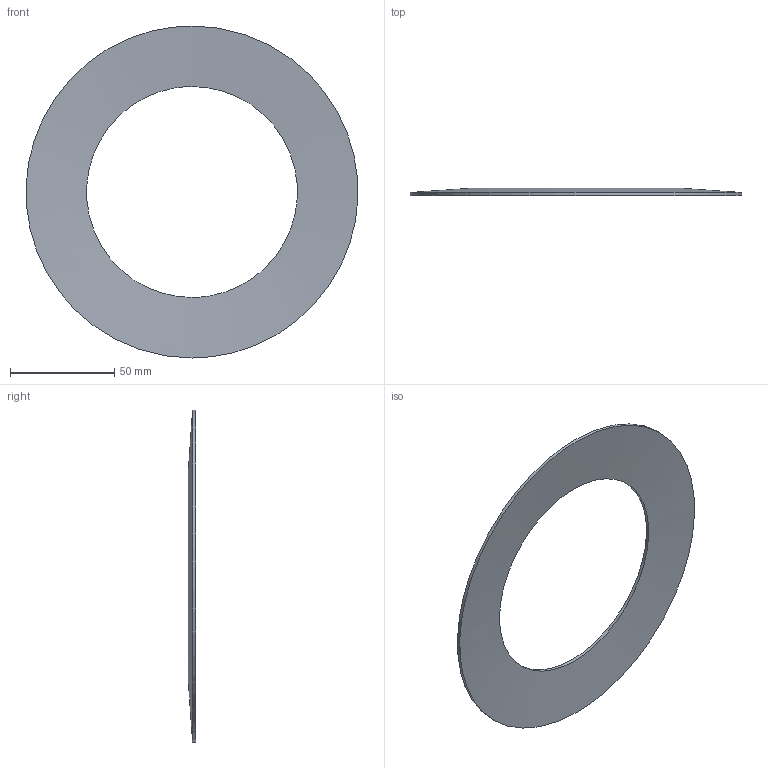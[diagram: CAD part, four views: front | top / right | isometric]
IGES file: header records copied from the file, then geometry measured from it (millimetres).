
Global section: file name: ST.1590.1010.0150; native system: Autodesk Inventor 2026; preprocessor: unknown; author: J. Iwanek; date: 20260918.103931; units: millimetre
Bounding box: 158.87 x 3.5 x 159 mm (x, y, z)
Volume: 17814.2 mm3; surface area: 24980.9 mm2
Topology: 1 solids, 1 shells, 4 faces, 12 edges, 8 vertices
Faces by surface type: bspline 4
